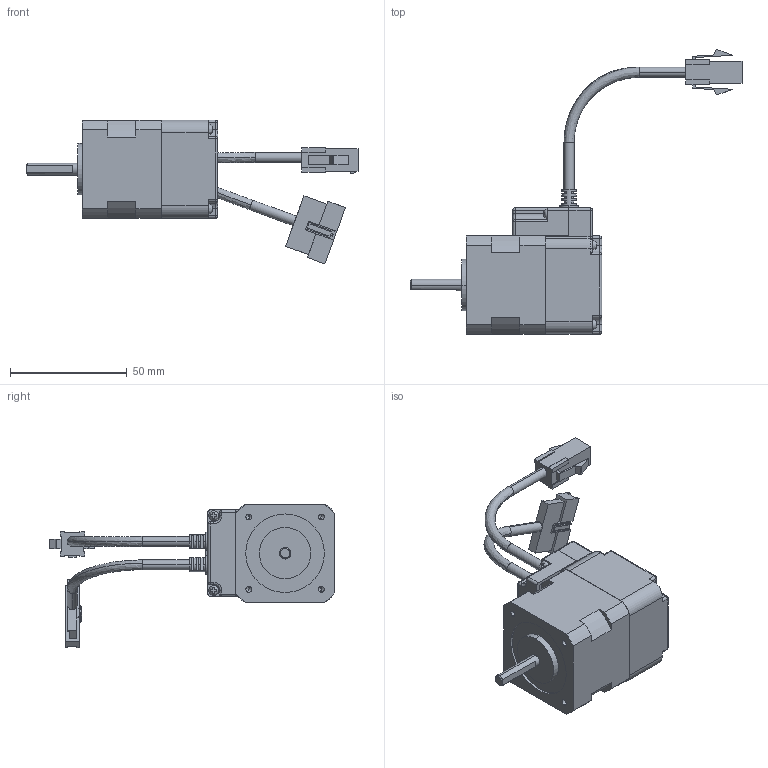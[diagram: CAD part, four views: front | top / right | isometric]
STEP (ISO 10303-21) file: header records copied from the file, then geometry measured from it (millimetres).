
FILE_DESCRIPTION (( 'STEP AP203' ), '1' );
FILE_NAME ('M11-MO-042-01-R00.STEP', '2014-12-21T04:38:09', ( 'Registered User' ), ( 'Microsoft Corporation' ), 'SwSTEP 2.0', 'SolidWorks 2013', '' );
FILE_SCHEMA (( 'CONFIG_CONTROL_DESIGN' ));
Length unit declared in the file: millimetre
Products named in the file (10): MainEzM-42S-assembly-1; EzM-42S Assembly_091218; M11-MO-042-01-R00(EzM-42S-01)_湀_; M11-MO-042-01-R00; MainEZSV_42_Cable_Cover-1-1; MainEZSV_42_Encoder_Cover-1-1; MainEncoder_Mounting_Plate-1-6; MainM3-screw-1-5; Mainconnector_e-1-9; Maincable-1-6
Assembly tree (14 placements, depth 4):
  M11-MO-042-01-R00
    M11-MO-042-01-R00(EzM-42S-01)_湀_
    EzM-42S Assembly_091218
      MainEzM-42S-assembly-1
        MainEZSV_42_Cable_Cover-1-1
        MainEZSV_42_Encoder_Cover-1-1
        MainEncoder_Mounting_Plate-1-6
        MainM3-screw-1-5  x6
        Mainconnector_e-1-9
        Maincable-1-6
Bounding box: 142 x 121.61 x 61.49 mm (x, y, z)
Volume: 79525.5 mm3; surface area: 37571 mm2
Topology: 12 solids, 12 shells, 788 faces, 2056 edges, 1318 vertices
Faces by surface type: plane 433, cylinder 299, bspline 34, cone 22
Entity records: 22429 total; most frequent: CARTESIAN_POINT 4278, DIRECTION 3654, ORIENTED_EDGE 3468, EDGE_CURVE 1734, AXIS2_PLACEMENT_3D 1280, VERTEX_POINT 1128, VECTOR 1094, LINE 1094
